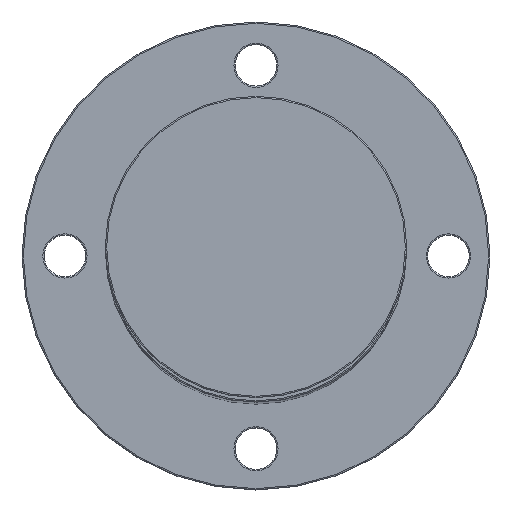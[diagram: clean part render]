
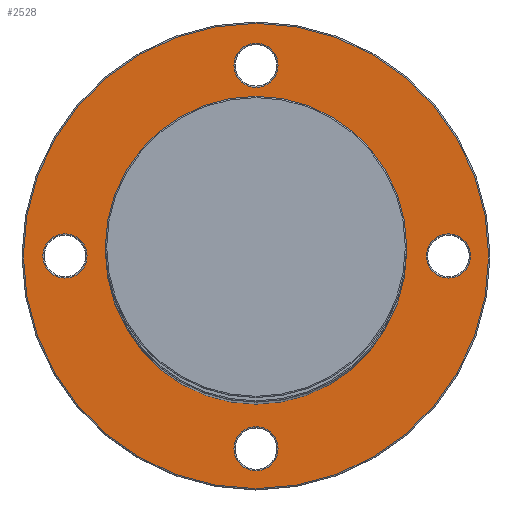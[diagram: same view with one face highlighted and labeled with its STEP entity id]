
A CAD part, top view. The second image highlights one B-rep face of the part: STEP entity #2528.
In plain terms, the highlighted planar face has unit normal (0, 0, 1).
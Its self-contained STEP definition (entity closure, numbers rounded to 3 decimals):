
#73=FACE_BOUND('',#884,.T.);
#74=FACE_BOUND('',#885,.T.);
#75=FACE_BOUND('',#886,.T.);
#76=FACE_BOUND('',#887,.T.);
#77=FACE_BOUND('',#888,.T.);
#78=FACE_BOUND('',#889,.T.);
#135=PLANE('',#2849);
#286=LINE('',#4339,#466);
#287=LINE('',#4340,#467);
#288=LINE('',#4345,#468);
#289=LINE('',#4347,#469);
#290=LINE('',#4349,#470);
#291=LINE('',#4353,#471);
#292=LINE('',#4355,#472);
#293=LINE('',#4357,#473);
#294=LINE('',#4361,#474);
#295=LINE('',#4363,#475);
#296=LINE('',#4364,#476);
#466=VECTOR('',#3591,10.);
#467=VECTOR('',#3592,10.);
#468=VECTOR('',#3595,10.);
#469=VECTOR('',#3596,10.);
#470=VECTOR('',#3597,10.);
#471=VECTOR('',#3600,10.);
#472=VECTOR('',#3601,10.);
#473=VECTOR('',#3602,10.);
#474=VECTOR('',#3605,10.);
#475=VECTOR('',#3606,10.);
#476=VECTOR('',#3607,10.);
#703=FACE_OUTER_BOUND('',#883,.T.);
#883=EDGE_LOOP('',(#2253));
#884=EDGE_LOOP('',(#2254));
#885=EDGE_LOOP('',(#2255));
#886=EDGE_LOOP('',(#2256,#2257,#2258));
#887=EDGE_LOOP('',(#2259,#2260,#2261,#2262,#2263,#2264,#2265,#2266,#2267,
#2268,#2269,#2270));
#888=EDGE_LOOP('',(#2271));
#889=EDGE_LOOP('',(#2272));
#1064=CIRCLE('',#2845,8.5);
#1068=CIRCLE('',#2850,89.5);
#1069=CIRCLE('',#2851,8.5);
#1070=CIRCLE('',#2852,8.5);
#1071=CIRCLE('',#2853,55.);
#1072=CIRCLE('',#2854,52.183);
#1073=CIRCLE('',#2855,52.183);
#1074=CIRCLE('',#2856,52.183);
#1075=CIRCLE('',#2857,8.5);
#1282=VERTEX_POINT('',#4321);
#1285=VERTEX_POINT('',#4329);
#1286=VERTEX_POINT('',#4331);
#1287=VERTEX_POINT('',#4333);
#1288=VERTEX_POINT('',#4335);
#1289=VERTEX_POINT('',#4336);
#1290=VERTEX_POINT('',#4338);
#1291=VERTEX_POINT('',#4341);
#1292=VERTEX_POINT('',#4342);
#1293=VERTEX_POINT('',#4344);
#1294=VERTEX_POINT('',#4346);
#1295=VERTEX_POINT('',#4348);
#1296=VERTEX_POINT('',#4350);
#1297=VERTEX_POINT('',#4352);
#1298=VERTEX_POINT('',#4354);
#1299=VERTEX_POINT('',#4356);
#1300=VERTEX_POINT('',#4358);
#1301=VERTEX_POINT('',#4360);
#1302=VERTEX_POINT('',#4362);
#1303=VERTEX_POINT('',#4365);
#1612=EDGE_CURVE('',#1282,#1282,#1064,.T.);
#1616=EDGE_CURVE('',#1285,#1285,#1068,.T.);
#1617=EDGE_CURVE('',#1286,#1286,#1069,.T.);
#1618=EDGE_CURVE('',#1287,#1287,#1070,.T.);
#1619=EDGE_CURVE('',#1288,#1289,#1071,.T.);
#1620=EDGE_CURVE('',#1289,#1290,#286,.T.);
#1621=EDGE_CURVE('',#1290,#1288,#287,.T.);
#1622=EDGE_CURVE('',#1291,#1292,#1072,.T.);
#1623=EDGE_CURVE('',#1292,#1293,#288,.T.);
#1624=EDGE_CURVE('',#1293,#1294,#289,.T.);
#1625=EDGE_CURVE('',#1294,#1295,#290,.T.);
#1626=EDGE_CURVE('',#1295,#1296,#1073,.T.);
#1627=EDGE_CURVE('',#1296,#1297,#291,.T.);
#1628=EDGE_CURVE('',#1297,#1298,#292,.T.);
#1629=EDGE_CURVE('',#1298,#1299,#293,.T.);
#1630=EDGE_CURVE('',#1299,#1300,#1074,.T.);
#1631=EDGE_CURVE('',#1300,#1301,#294,.T.);
#1632=EDGE_CURVE('',#1301,#1302,#295,.T.);
#1633=EDGE_CURVE('',#1302,#1291,#296,.T.);
#1634=EDGE_CURVE('',#1303,#1303,#1075,.T.);
#2253=ORIENTED_EDGE('',*,*,#1616,.F.);
#2254=ORIENTED_EDGE('',*,*,#1617,.F.);
#2255=ORIENTED_EDGE('',*,*,#1618,.F.);
#2256=ORIENTED_EDGE('',*,*,#1619,.T.);
#2257=ORIENTED_EDGE('',*,*,#1620,.T.);
#2258=ORIENTED_EDGE('',*,*,#1621,.T.);
#2259=ORIENTED_EDGE('',*,*,#1622,.T.);
#2260=ORIENTED_EDGE('',*,*,#1623,.T.);
#2261=ORIENTED_EDGE('',*,*,#1624,.T.);
#2262=ORIENTED_EDGE('',*,*,#1625,.T.);
#2263=ORIENTED_EDGE('',*,*,#1626,.T.);
#2264=ORIENTED_EDGE('',*,*,#1627,.T.);
#2265=ORIENTED_EDGE('',*,*,#1628,.T.);
#2266=ORIENTED_EDGE('',*,*,#1629,.T.);
#2267=ORIENTED_EDGE('',*,*,#1630,.T.);
#2268=ORIENTED_EDGE('',*,*,#1631,.T.);
#2269=ORIENTED_EDGE('',*,*,#1632,.T.);
#2270=ORIENTED_EDGE('',*,*,#1633,.T.);
#2271=ORIENTED_EDGE('',*,*,#1634,.F.);
#2272=ORIENTED_EDGE('',*,*,#1612,.F.);
#2528=ADVANCED_FACE('',(#703,#73,#74,#75,#76,#77,#78),#135,.T.);
#2845=AXIS2_PLACEMENT_3D('',#4322,#3573,#3574);
#2849=AXIS2_PLACEMENT_3D('',#4328,#3581,#3582);
#2850=AXIS2_PLACEMENT_3D('',#4330,#3583,#3584);
#2851=AXIS2_PLACEMENT_3D('',#4332,#3585,#3586);
#2852=AXIS2_PLACEMENT_3D('',#4334,#3587,#3588);
#2853=AXIS2_PLACEMENT_3D('',#4337,#3589,#3590);
#2854=AXIS2_PLACEMENT_3D('',#4343,#3593,#3594);
#2855=AXIS2_PLACEMENT_3D('',#4351,#3598,#3599);
#2856=AXIS2_PLACEMENT_3D('',#4359,#3603,#3604);
#2857=AXIS2_PLACEMENT_3D('',#4366,#3608,#3609);
#3573=DIRECTION('center_axis',(0.,0.,1.));
#3574=DIRECTION('ref_axis',(1.,0.,0.));
#3581=DIRECTION('center_axis',(0.,0.,1.));
#3582=DIRECTION('ref_axis',(1.,0.,0.));
#3583=DIRECTION('center_axis',(0.,0.,-1.));
#3584=DIRECTION('ref_axis',(1.,0.,0.));
#3585=DIRECTION('center_axis',(0.,0.,1.));
#3586=DIRECTION('ref_axis',(1.,0.,0.));
#3587=DIRECTION('center_axis',(0.,0.,1.));
#3588=DIRECTION('ref_axis',(1.,0.,0.));
#3589=DIRECTION('center_axis',(0.,0.,1.));
#3590=DIRECTION('ref_axis',(1.,0.,0.));
#3591=DIRECTION('',(-1.,0.,0.));
#3592=DIRECTION('',(0.,1.,0.));
#3593=DIRECTION('center_axis',(0.,0.,-1.));
#3594=DIRECTION('ref_axis',(0.637,-0.771,0.));
#3595=DIRECTION('',(-0.5,0.866,0.));
#3596=DIRECTION('',(-0.866,-0.5,0.));
#3597=DIRECTION('',(0.5,-0.866,0.));
#3598=DIRECTION('center_axis',(0.,0.,-1.));
#3599=DIRECTION('ref_axis',(-0.986,-0.167,0.));
#3600=DIRECTION('',(1.,0.,0.));
#3601=DIRECTION('',(0.,1.,0.));
#3602=DIRECTION('',(-1.,0.,0.));
#3603=DIRECTION('center_axis',(0.,0.,-1.));
#3604=DIRECTION('ref_axis',(0.349,0.937,0.));
#3605=DIRECTION('',(-0.5,-0.866,0.));
#3606=DIRECTION('',(0.866,-0.5,0.));
#3607=DIRECTION('',(0.5,0.866,0.));
#3608=DIRECTION('center_axis',(0.,0.,1.));
#3609=DIRECTION('ref_axis',(1.,0.,0.));
#4321=CARTESIAN_POINT('',(8.5,73.348,0.));
#4322=CARTESIAN_POINT('Origin',(0.,73.348,0.));
#4328=CARTESIAN_POINT('Origin',(0.,0.,0.));
#4329=CARTESIAN_POINT('',(-89.5,0.,0.));
#4330=CARTESIAN_POINT('Origin',(0.,0.,0.));
#4331=CARTESIAN_POINT('',(82.518,0.,0.));
#4332=CARTESIAN_POINT('Origin',(74.018,0.,0.));
#4333=CARTESIAN_POINT('',(-64.985,0.,0.));
#4334=CARTESIAN_POINT('Origin',(-73.485,0.,0.));
#4335=CARTESIAN_POINT('',(-54.476,-7.571,0.));
#4336=CARTESIAN_POINT('',(-54.308,-8.696,0.));
#4337=CARTESIAN_POINT('Origin',(0.,0.,0.));
#4338=CARTESIAN_POINT('',(-54.476,-8.696,0.));
#4339=CARTESIAN_POINT('',(-54.308,-8.696,0.));
#4340=CARTESIAN_POINT('',(-54.476,-8.696,0.));
#4341=CARTESIAN_POINT('',(32.372,40.928,0.));
#4342=CARTESIAN_POINT('',(33.257,-40.212,0.));
#4343=CARTESIAN_POINT('Origin',(0.,0.,0.));
#4344=CARTESIAN_POINT('',(28.347,-31.707,0.));
#4345=CARTESIAN_POINT('',(28.347,-31.707,0.));
#4346=CARTESIAN_POINT('',(14.259,-39.84,0.));
#4347=CARTESIAN_POINT('',(14.259,-39.84,0.));
#4348=CARTESIAN_POINT('',(19.258,-48.499,0.));
#4349=CARTESIAN_POINT('',(19.258,-48.499,0.));
#4350=CARTESIAN_POINT('',(-51.453,-8.696,0.));
#4351=CARTESIAN_POINT('Origin',(0.,0.,0.));
#4352=CARTESIAN_POINT('',(-41.633,-8.696,0.));
#4353=CARTESIAN_POINT('',(-41.633,-8.696,0.));
#4354=CARTESIAN_POINT('',(-41.633,7.571,0.));
#4355=CARTESIAN_POINT('',(-41.633,7.571,0.));
#4356=CARTESIAN_POINT('',(-51.631,7.571,0.));
#4357=CARTESIAN_POINT('',(-51.631,7.571,0.));
#4358=CARTESIAN_POINT('',(18.196,48.907,0.));
#4359=CARTESIAN_POINT('Origin',(0.,0.,0.));
#4360=CARTESIAN_POINT('',(13.286,40.403,0.));
#4361=CARTESIAN_POINT('',(13.286,40.403,0.));
#4362=CARTESIAN_POINT('',(27.373,32.269,0.));
#4363=CARTESIAN_POINT('',(27.373,32.269,0.));
#4364=CARTESIAN_POINT('',(32.372,40.928,0.));
#4365=CARTESIAN_POINT('',(8.5,-74.155,0.));
#4366=CARTESIAN_POINT('Origin',(0.,-74.155,0.));
